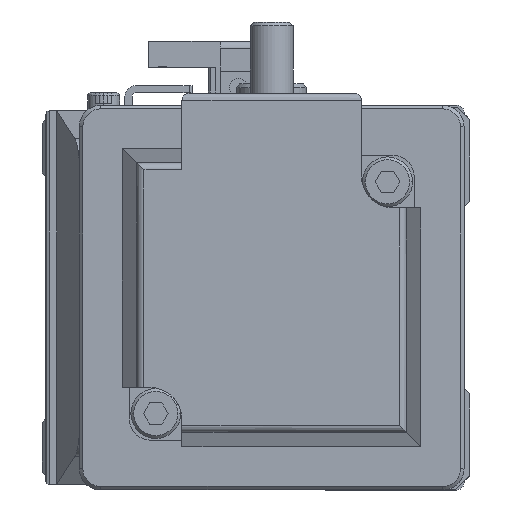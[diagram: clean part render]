
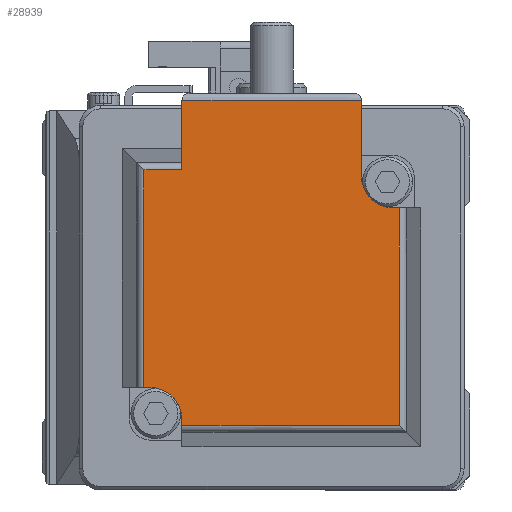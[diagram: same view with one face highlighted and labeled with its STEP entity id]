
A CAD part, left-side view. The second image highlights one B-rep face of the part: STEP entity #28939.
In plain terms, the highlighted planar face has unit normal (-1, 0, 0) as drawn and (0, 1, 0) by its records, which use the part's own axes.
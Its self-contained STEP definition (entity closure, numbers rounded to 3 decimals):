
#119 = LINE ( 'NONE', #2053, #20622 ) ;
#213 = CARTESIAN_POINT ( 'NONE',  ( -17.1, 100.6, -12.6 ) ) ;
#628 = EDGE_LOOP ( 'NONE', ( #33145, #16750, #30971, #23924, #26833, #23086, #17410, #17706, #12751, #1367, #2365, #29055 ) ) ;
#704 = CARTESIAN_POINT ( 'NONE',  ( -12.6, 100.6, -17.1 ) ) ;
#993 = EDGE_CURVE ( 'NONE', #26632, #31485, #10501, .T. ) ;
#1138 = EDGE_CURVE ( 'NONE', #26659, #24929, #30619, .T. ) ;
#1367 = ORIENTED_EDGE ( 'NONE', *, *, #15358, .F. ) ;
#1574 = CARTESIAN_POINT ( 'NONE',  ( 17.929, 100.6, -12.6 ) ) ;
#1616 = CARTESIAN_POINT ( 'NONE',  ( 17.929, 100.6, -17.929 ) ) ;
#2053 = CARTESIAN_POINT ( 'NONE',  ( 17.929, 100.6, 12.6 ) ) ;
#2060 = EDGE_CURVE ( 'NONE', #31756, #4379, #11235, .T. ) ;
#2301 = VECTOR ( 'NONE', #8421, 1000. ) ;
#2365 = ORIENTED_EDGE ( 'NONE', *, *, #2060, .F. ) ;
#3289 = VERTEX_POINT ( 'NONE', #704 ) ;
#3808 = LINE ( 'NONE', #25196, #16080 ) ;
#3909 = EDGE_CURVE ( 'NONE', #24929, #8418, #24649, .T. ) ;
#4009 = PLANE ( 'NONE',  #7778 ) ;
#4214 = DIRECTION ( 'NONE',  ( 1., 0., 0. ) ) ;
#4379 = VERTEX_POINT ( 'NONE', #33859 ) ;
#4413 = CARTESIAN_POINT ( 'NONE',  ( 17.1, 100.6, 17.1 ) ) ;
#4912 = EDGE_CURVE ( 'NONE', #6234, #31756, #9436, .T. ) ;
#5137 = VECTOR ( 'NONE', #4214, 1000. ) ;
#6234 = VERTEX_POINT ( 'NONE', #13228 ) ;
#6285 = CARTESIAN_POINT ( 'NONE',  ( -12.6, 100.6, -17.929 ) ) ;
#7327 = EDGE_CURVE ( 'NONE', #31485, #30335, #20919, .T. ) ;
#7741 = CARTESIAN_POINT ( 'NONE',  ( 17.929, 100.6, -17.929 ) ) ;
#7778 = AXIS2_PLACEMENT_3D ( 'NONE', #16842, #14558, #19483 ) ;
#7857 = CARTESIAN_POINT ( 'NONE',  ( 17.929, 100.6, -12.6 ) ) ;
#8075 = DIRECTION ( 'NONE',  ( 1., 0., 0. ) ) ;
#8418 = VERTEX_POINT ( 'NONE', #213 ) ;
#8421 = DIRECTION ( 'NONE',  ( 0., 0., -1. ) ) ;
#9376 = DIRECTION ( 'NONE',  ( 0., 0., 1. ) ) ;
#9436 = CIRCLE ( 'NONE', #30131, 4.5 ) ;
#9558 = FACE_OUTER_BOUND ( 'NONE', #628, .T. ) ;
#9794 = LINE ( 'NONE', #15542, #22071 ) ;
#10499 = DIRECTION ( 'NONE',  ( -1., 0., 0. ) ) ;
#10501 = LINE ( 'NONE', #7741, #23596 ) ;
#11235 = LINE ( 'NONE', #17671, #12078 ) ;
#11301 = CARTESIAN_POINT ( 'NONE',  ( 27.7, 100.6, 12.6 ) ) ;
#11378 = EDGE_CURVE ( 'NONE', #30335, #31306, #23158, .T. ) ;
#12078 = VECTOR ( 'NONE', #17985, 1000. ) ;
#12228 = CARTESIAN_POINT ( 'NONE',  ( -12.6, 100.6, -21. ) ) ;
#12700 = DIRECTION ( 'NONE',  ( -1., 0., 0. ) ) ;
#12751 = ORIENTED_EDGE ( 'NONE', *, *, #1138, .F. ) ;
#13228 = CARTESIAN_POINT ( 'NONE',  ( 17.1, 100.6, 12.6 ) ) ;
#13298 = EDGE_CURVE ( 'NONE', #31306, #25509, #3808, .T. ) ;
#14199 = CARTESIAN_POINT ( 'NONE',  ( -17.929, 100.6, -12.6 ) ) ;
#14558 = DIRECTION ( 'NONE',  ( 0., -1., 0. ) ) ;
#15358 = EDGE_CURVE ( 'NONE', #4379, #26659, #9794, .T. ) ;
#15542 = CARTESIAN_POINT ( 'NONE',  ( 17.929, 100.6, 17.929 ) ) ;
#15676 = DIRECTION ( 'NONE',  ( 0., -1., 0. ) ) ;
#15821 = LINE ( 'NONE', #12228, #17056 ) ;
#16080 = VECTOR ( 'NONE', #25308, 1000. ) ;
#16582 = CARTESIAN_POINT ( 'NONE',  ( 12.6, 100.6, 17.1 ) ) ;
#16750 = ORIENTED_EDGE ( 'NONE', *, *, #13298, .F. ) ;
#16842 = CARTESIAN_POINT ( 'NONE',  ( 17.929, 100.6, 25. ) ) ;
#17056 = VECTOR ( 'NONE', #32832, 1000. ) ;
#17410 = ORIENTED_EDGE ( 'NONE', *, *, #33532, .T. ) ;
#17671 = CARTESIAN_POINT ( 'NONE',  ( 12.6, 100.6, 25. ) ) ;
#17706 = ORIENTED_EDGE ( 'NONE', *, *, #3909, .F. ) ;
#17985 = DIRECTION ( 'NONE',  ( 0., 0., 1. ) ) ;
#19483 = DIRECTION ( 'NONE',  ( 0., 0., -1. ) ) ;
#19727 = VECTOR ( 'NONE', #8075, 1000. ) ;
#19807 = CARTESIAN_POINT ( 'NONE',  ( 17.929, 100.6, 25. ) ) ;
#20622 = VECTOR ( 'NONE', #12700, 1000. ) ;
#20747 = CIRCLE ( 'NONE', #21256, 4.5 ) ;
#20919 = LINE ( 'NONE', #19807, #23372 ) ;
#21256 = AXIS2_PLACEMENT_3D ( 'NONE', #31375, #15676, #21376 ) ;
#21376 = DIRECTION ( 'NONE',  ( 0., 0., -1. ) ) ;
#21702 = EDGE_CURVE ( 'NONE', #25509, #6234, #119, .T. ) ;
#22071 = VECTOR ( 'NONE', #10499, 1000. ) ;
#22608 = DIRECTION ( 'NONE',  ( 0., 1., 0. ) ) ;
#23086 = ORIENTED_EDGE ( 'NONE', *, *, #33884, .T. ) ;
#23158 = LINE ( 'NONE', #1574, #5137 ) ;
#23372 = VECTOR ( 'NONE', #9376, 1000. ) ;
#23596 = VECTOR ( 'NONE', #31001, 1000. ) ;
#23862 = CARTESIAN_POINT ( 'NONE',  ( -17.929, 100.6, 25. ) ) ;
#23924 = ORIENTED_EDGE ( 'NONE', *, *, #7327, .F. ) ;
#24591 = CARTESIAN_POINT ( 'NONE',  ( -17.929, 100.6, 17.929 ) ) ;
#24649 = LINE ( 'NONE', #7857, #19727 ) ;
#24929 = VERTEX_POINT ( 'NONE', #14199 ) ;
#25196 = CARTESIAN_POINT ( 'NONE',  ( 27.7, 100.6, 25. ) ) ;
#25308 = DIRECTION ( 'NONE',  ( 0., 0., 1. ) ) ;
#25509 = VERTEX_POINT ( 'NONE', #11301 ) ;
#25526 = CARTESIAN_POINT ( 'NONE',  ( 27.7, 100.6, -12.6 ) ) ;
#26632 = VERTEX_POINT ( 'NONE', #6285 ) ;
#26659 = VERTEX_POINT ( 'NONE', #24591 ) ;
#26833 = ORIENTED_EDGE ( 'NONE', *, *, #993, .F. ) ;
#27779 = DIRECTION ( 'NONE',  ( 0., 0., -1. ) ) ;
#28939 = ADVANCED_FACE ( 'NONE', ( #9558 ), #4009, .F. ) ;
#29055 = ORIENTED_EDGE ( 'NONE', *, *, #4912, .F. ) ;
#30131 = AXIS2_PLACEMENT_3D ( 'NONE', #4413, #22608, #27779 ) ;
#30335 = VERTEX_POINT ( 'NONE', #30734 ) ;
#30619 = LINE ( 'NONE', #23862, #2301 ) ;
#30734 = CARTESIAN_POINT ( 'NONE',  ( 17.929, 100.6, -12.6 ) ) ;
#30971 = ORIENTED_EDGE ( 'NONE', *, *, #11378, .F. ) ;
#31001 = DIRECTION ( 'NONE',  ( 1., 0., 0. ) ) ;
#31306 = VERTEX_POINT ( 'NONE', #25526 ) ;
#31375 = CARTESIAN_POINT ( 'NONE',  ( -17.1, 100.6, -17.1 ) ) ;
#31485 = VERTEX_POINT ( 'NONE', #1616 ) ;
#31756 = VERTEX_POINT ( 'NONE', #16582 ) ;
#32832 = DIRECTION ( 'NONE',  ( 0., 0., 1. ) ) ;
#33145 = ORIENTED_EDGE ( 'NONE', *, *, #21702, .F. ) ;
#33532 = EDGE_CURVE ( 'NONE', #3289, #8418, #20747, .T. ) ;
#33859 = CARTESIAN_POINT ( 'NONE',  ( 12.6, 100.6, 17.929 ) ) ;
#33884 = EDGE_CURVE ( 'NONE', #26632, #3289, #15821, .T. ) ;
